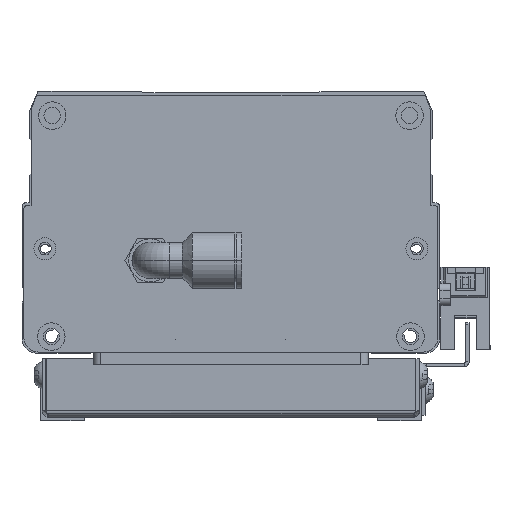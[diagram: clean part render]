
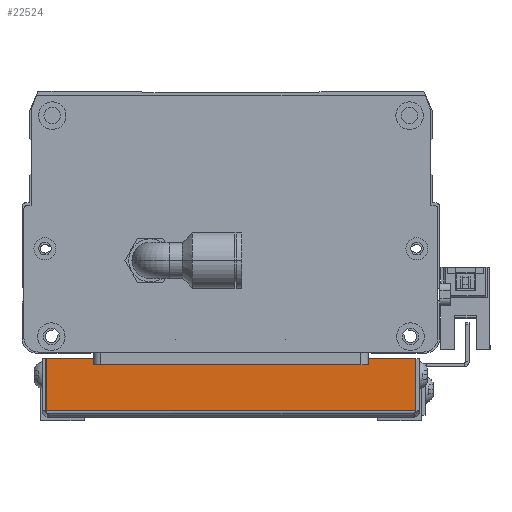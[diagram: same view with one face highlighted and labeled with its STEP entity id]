
A CAD part, front view. The second image highlights one B-rep face of the part: STEP entity #22524.
In plain terms, the highlighted planar face has unit normal (0, -1, 0) as drawn and (0, 0, -1) by its records, which use the part's own axes.
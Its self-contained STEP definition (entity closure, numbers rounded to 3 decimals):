
#87 = DIRECTION ( 'NONE',  ( 1., 0., 0. ) ) ;
#1084 = EDGE_CURVE ( 'NONE', #8783, #19383, #7201, .T. ) ;
#1122 = EDGE_CURVE ( 'NONE', #27717, #21038, #24945, .T. ) ;
#1143 = ORIENTED_EDGE ( 'NONE', *, *, #1122, .F. ) ;
#2975 = ORIENTED_EDGE ( 'NONE', *, *, #1084, .F. ) ;
#3665 = DIRECTION ( 'NONE',  ( 0., -1., 0. ) ) ;
#4526 = CARTESIAN_POINT ( 'NONE',  ( 83.272, 142.76, -9.273 ) ) ;
#5863 = VECTOR ( 'NONE', #18500, 1000. ) ;
#7016 = DIRECTION ( 'NONE',  ( -1., 0., 0. ) ) ;
#7201 = LINE ( 'NONE', #25562, #27856 ) ;
#7839 = DIRECTION ( 'NONE',  ( 0., 0., 1. ) ) ;
#8783 = VERTEX_POINT ( 'NONE', #13919 ) ;
#8784 = LINE ( 'NONE', #17938, #26520 ) ;
#11148 = EDGE_LOOP ( 'NONE', ( #2975, #26143, #1143, #19788 ) ) ;
#11560 = VECTOR ( 'NONE', #87, 1000. ) ;
#12738 = CARTESIAN_POINT ( 'NONE',  ( 83.272, 142.76, -9.273 ) ) ;
#13919 = CARTESIAN_POINT ( 'NONE',  ( 184.072, 142.76, -9.273 ) ) ;
#16028 = LINE ( 'NONE', #4526, #5863 ) ;
#17159 = DIRECTION ( 'NONE',  ( 0., -1., 0. ) ) ;
#17938 = CARTESIAN_POINT ( 'NONE',  ( 184.072, 142.76, -9.273 ) ) ;
#18483 = CARTESIAN_POINT ( 'NONE',  ( 83.272, 128.497, -9.273 ) ) ;
#18500 = DIRECTION ( 'NONE',  ( 0., -1., 0. ) ) ;
#18858 = CARTESIAN_POINT ( 'NONE',  ( 184.072, 128.497, -9.273 ) ) ;
#19009 = CARTESIAN_POINT ( 'NONE',  ( 83.172, 128.497, -9.273 ) ) ;
#19383 = VERTEX_POINT ( 'NONE', #12738 ) ;
#19618 = PLANE ( 'NONE',  #19620 ) ;
#19620 = AXIS2_PLACEMENT_3D ( 'NONE', #28594, #7839, #17159 ) ;
#19788 = ORIENTED_EDGE ( 'NONE', *, *, #23660, .F. ) ;
#21038 = VERTEX_POINT ( 'NONE', #18858 ) ;
#22524 = ADVANCED_FACE ( 'NONE', ( #29078 ), #19618, .F. ) ;
#23660 = EDGE_CURVE ( 'NONE', #19383, #27717, #16028, .T. ) ;
#23814 = EDGE_CURVE ( 'NONE', #8783, #21038, #8784, .T. ) ;
#24945 = LINE ( 'NONE', #19009, #11560 ) ;
#25562 = CARTESIAN_POINT ( 'NONE',  ( 262.181, 142.76, -9.273 ) ) ;
#26143 = ORIENTED_EDGE ( 'NONE', *, *, #23814, .T. ) ;
#26520 = VECTOR ( 'NONE', #3665, 1000. ) ;
#27717 = VERTEX_POINT ( 'NONE', #18483 ) ;
#27856 = VECTOR ( 'NONE', #7016, 1000. ) ;
#28594 = CARTESIAN_POINT ( 'NONE',  ( 262.181, 144.497, -9.273 ) ) ;
#29078 = FACE_OUTER_BOUND ( 'NONE', #11148, .T. ) ;
